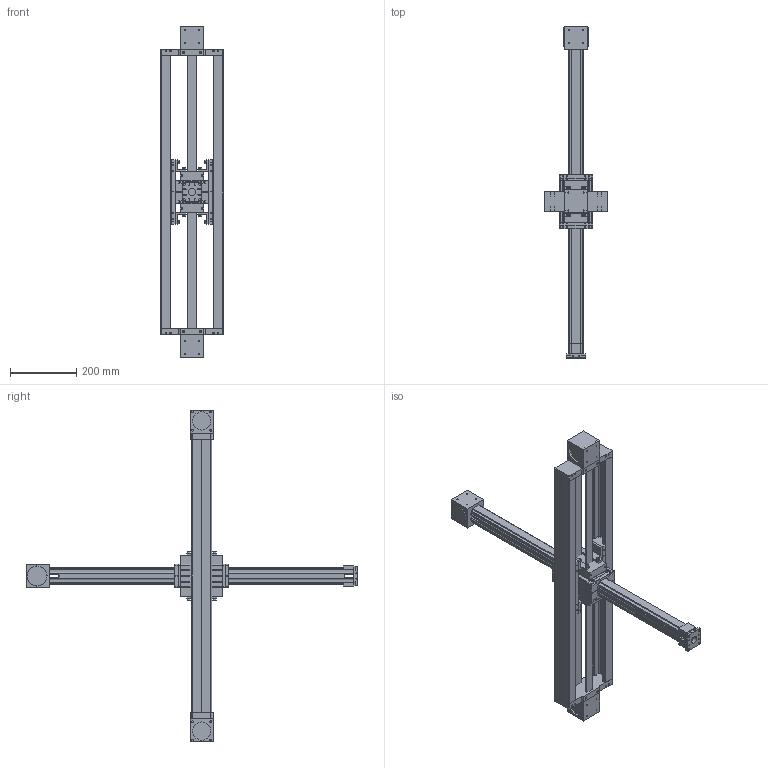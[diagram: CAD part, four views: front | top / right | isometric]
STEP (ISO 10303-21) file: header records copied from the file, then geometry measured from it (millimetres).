
FILE_DESCRIPTION (( 'STEP AP214' ), '1' );
FILE_NAME ('ELZI40.STEP', '2022-07-12T13:40:23', ( '' ), ( '' ), 'SwSTEP 2.0', 'SolidWorks 2020', '' );
FILE_SCHEMA (( 'AUTOMOTIVE_DESIGN' ));
Length unit declared in the file: millimetre
Products named in the file (11): carriage z^ELZI40;  timing belt reverse unit x^ELZI40_coupling claw pos.1; end plate^ELZI40; profile x^ELZI40_standard; profile z^ELZI40_standard; ELZI40; carriage x^ELZI40_carriage 0;  timing belt reverse unit x^ELZI40_coupling claw pos.2; end block^ELZI40; timing belt reverse unit z^ELZI40; connecting angle^ELZI40
Assembly tree (15 placements, depth 2):
  ELZI40
    profile z^ELZI40_standard
    profile x^ELZI40_standard
    carriage z^ELZI40
    carriage x^ELZI40_carriage 0  x2
    connecting angle^ELZI40  x4
    timing belt reverse unit z^ELZI40
    end block^ELZI40
    end plate^ELZI40  x2
     timing belt reverse unit x^ELZI40_coupling claw pos.1
     timing belt reverse unit x^ELZI40_coupling claw pos.2
Bounding box: 187 x 1000 x 1000 mm (x, y, z)
Volume: 5837906.5 mm3; surface area: 1613994.5 mm2
Topology: 41 solids, 41 shells, 1633 faces, 4181 edges, 2628 vertices
Faces by surface type: plane 814, cylinder 599, cone 204, torus 16
Entity records: 40288 total; most frequent: DIRECTION 6688, CARTESIAN_POINT 6652, ORIENTED_EDGE 6308, EDGE_CURVE 3154, AXIS2_PLACEMENT_3D 2260, VECTOR 2168, LINE 2168, VERTEX_POINT 2066
